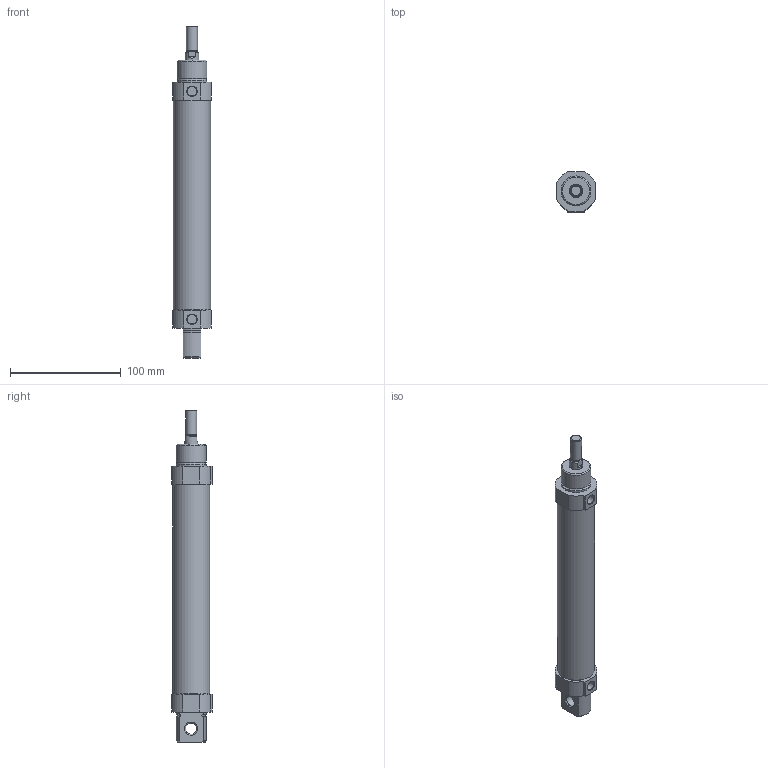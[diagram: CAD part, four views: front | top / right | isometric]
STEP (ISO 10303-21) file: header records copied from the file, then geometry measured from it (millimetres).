
FILE_DESCRIPTION((''),'2;1');
FILE_NAME('I:\3D電子目錄\氣缸\SDA\SDA32\SDA32\SDA32x150.stp','2007-08-06T10:35:58',('Administrator'),(''),'Autodesk Inventor 2008','Autodesk Inventor 2008','');
FILE_SCHEMA(('AUTOMOTIVE_DESIGN { 1 0 10303 214 1 1 1 1 }'));
Length unit declared in the file: millimetre
Products named in the file (1): SDA32X150
Bounding box: 35 x 36.5 x 300 mm (x, y, z)
Volume: 225925.5 mm3; surface area: 32374 mm2
Topology: 1 solids, 1 shells, 65 faces, 152 edges, 98 vertices
Faces by surface type: plane 27, cylinder 21, cone 12, torus 3, bspline 2
Full cylindrical faces by diameter (mm): 8.5 x2, 8.6 x1, 10 x2, 12 x1, 27 x2, 33.6 x1
Entity records: 1946 total; most frequent: CARTESIAN_POINT 486, DIRECTION 306, ORIENTED_EDGE 266, EDGE_CURVE 133, AXIS2_PLACEMENT_3D 121, VERTEX_POINT 97, EDGE_LOOP 94, FACE_OUTER_BOUND 65
